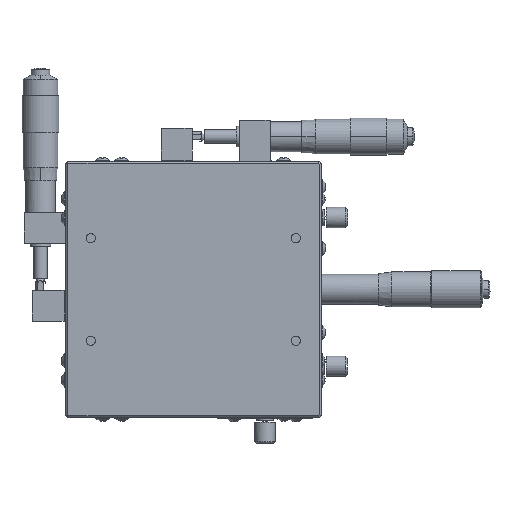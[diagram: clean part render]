
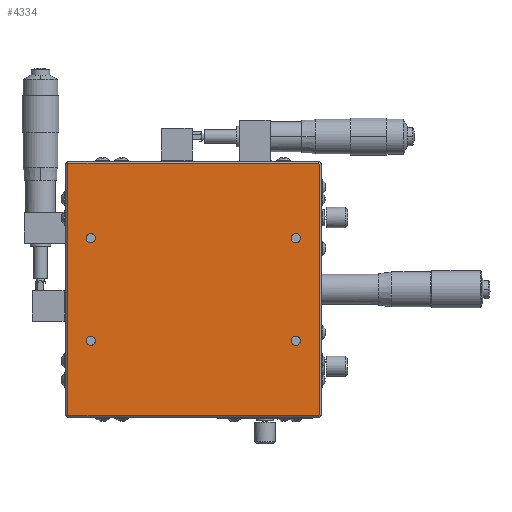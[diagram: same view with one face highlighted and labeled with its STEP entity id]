
A CAD part, front view. The second image highlights one B-rep face of the part: STEP entity #4334.
In plain terms, the highlighted planar face has unit normal (0, 1, 0).
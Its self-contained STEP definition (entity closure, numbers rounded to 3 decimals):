
#107 = AXIS2_PLACEMENT_3D ( 'NONE', #33218, #45636, #7953 ) ;
#946 = DIRECTION ( 'NONE',  ( 0.707, 0., -0.707 ) ) ;
#947 = VERTEX_POINT ( 'NONE', #36220 ) ;
#1582 = ORIENTED_EDGE ( 'NONE', *, *, #17622, .T. ) ;
#2377 = ORIENTED_EDGE ( 'NONE', *, *, #14992, .T. ) ;
#3553 = ORIENTED_EDGE ( 'NONE', *, *, #34336, .F. ) ;
#3908 = EDGE_CURVE ( 'NONE', #30836, #17145, #7326, .T. ) ;
#4127 = ORIENTED_EDGE ( 'NONE', *, *, #16329, .T. ) ;
#4334 = ADVANCED_FACE ( 'NONE', ( #49821, #18247, #31820, #7287, #40164 ), #10108, .T. ) ;
#4842 = ORIENTED_EDGE ( 'NONE', *, *, #19052, .T. ) ;
#5658 = VERTEX_POINT ( 'NONE', #27946 ) ;
#6011 = CARTESIAN_POINT ( 'NONE',  ( -52.828, -95.199, -61.086 ) ) ;
#6767 = DIRECTION ( 'NONE',  ( -0.707, 0., -0.707 ) ) ;
#7114 = EDGE_CURVE ( 'NONE', #37285, #28831, #30478, .T. ) ;
#7235 = VERTEX_POINT ( 'NONE', #38379 ) ;
#7287 = FACE_BOUND ( 'NONE', #45181, .T. ) ;
#7298 = ORIENTED_EDGE ( 'NONE', *, *, #7114, .T. ) ;
#7326 = LINE ( 'NONE', #38105, #44737 ) ;
#7567 = EDGE_LOOP ( 'NONE', ( #16828, #24787 ) ) ;
#7614 = CARTESIAN_POINT ( 'NONE',  ( -164.328, -95.199, -27.25 ) ) ;
#7698 = DIRECTION ( 'NONE',  ( 1., 0., 0. ) ) ;
#7953 = DIRECTION ( 'NONE',  ( 0., 0., 1. ) ) ;
#7985 = DIRECTION ( 'NONE',  ( 0., -1., 0. ) ) ;
#8106 = AXIS2_PLACEMENT_3D ( 'NONE', #28109, #11809, #24137 ) ;
#8314 = DIRECTION ( 'NONE',  ( 0., -1., 0. ) ) ;
#8493 = VECTOR ( 'NONE', #33819, 1000. ) ;
#8815 = CARTESIAN_POINT ( 'NONE',  ( -64.328, -95.199, -27.25 ) ) ;
#9354 = CIRCLE ( 'NONE', #52346, 2.25 ) ;
#9417 = CARTESIAN_POINT ( 'NONE',  ( -53.243, -95.199, 61.5 ) ) ;
#10108 = PLANE ( 'NONE',  #26323 ) ;
#10456 = DIRECTION ( 'NONE',  ( 0., 0., 1. ) ) ;
#10757 = CARTESIAN_POINT ( 'NONE',  ( -64.328, -95.199, 25. ) ) ;
#11610 = DIRECTION ( 'NONE',  ( -0.707, 0., -0.707 ) ) ;
#11736 = DIRECTION ( 'NONE',  ( 0., -1., 0. ) ) ;
#11809 = DIRECTION ( 'NONE',  ( 0., -1., 0. ) ) ;
#11917 = DIRECTION ( 'NONE',  ( 0., 0., 1. ) ) ;
#12427 = ORIENTED_EDGE ( 'NONE', *, *, #44029, .T. ) ;
#12929 = EDGE_CURVE ( 'NONE', #50950, #30836, #51274, .T. ) ;
#13561 = CARTESIAN_POINT ( 'NONE',  ( -175.828, -95.199, -61.086 ) ) ;
#14489 = DIRECTION ( 'NONE',  ( 0., 0., 1. ) ) ;
#14888 = DIRECTION ( 'NONE',  ( 0., -1., 0. ) ) ;
#14992 = EDGE_CURVE ( 'NONE', #28831, #50950, #17617, .T. ) ;
#15012 = VECTOR ( 'NONE', #44471, 1000. ) ;
#15028 = CARTESIAN_POINT ( 'NONE',  ( -175.414, -95.199, 61.5 ) ) ;
#15736 = CARTESIAN_POINT ( 'NONE',  ( -164.328, -95.199, 25. ) ) ;
#16102 = VERTEX_POINT ( 'NONE', #45888 ) ;
#16329 = EDGE_CURVE ( 'NONE', #52215, #41599, #43335, .T. ) ;
#16828 = ORIENTED_EDGE ( 'NONE', *, *, #29738, .T. ) ;
#16883 = CARTESIAN_POINT ( 'NONE',  ( -175.828, -95.199, 61.086 ) ) ;
#16942 = VERTEX_POINT ( 'NONE', #16883 ) ;
#17145 = VERTEX_POINT ( 'NONE', #19228 ) ;
#17169 = CIRCLE ( 'NONE', #30582, 2.25 ) ;
#17383 = EDGE_CURVE ( 'NONE', #7235, #17145, #35920, .T. ) ;
#17473 = EDGE_CURVE ( 'NONE', #21815, #43353, #23000, .T. ) ;
#17617 = LINE ( 'NONE', #27402, #15012 ) ;
#17622 = EDGE_CURVE ( 'NONE', #16102, #947, #17169, .T. ) ;
#17835 = EDGE_CURVE ( 'NONE', #41599, #52215, #31393, .T. ) ;
#18247 = FACE_BOUND ( 'NONE', #43891, .T. ) ;
#18424 = DIRECTION ( 'NONE',  ( 0., 1., 0. ) ) ;
#19042 = ORIENTED_EDGE ( 'NONE', *, *, #43039, .T. ) ;
#19052 = EDGE_CURVE ( 'NONE', #5658, #23974, #9354, .T. ) ;
#19228 = CARTESIAN_POINT ( 'NONE',  ( -175.414, -95.199, -61.5 ) ) ;
#19500 = EDGE_LOOP ( 'NONE', ( #4842, #47802 ) ) ;
#20845 = AXIS2_PLACEMENT_3D ( 'NONE', #47172, #22460, #14489 ) ;
#21364 = VECTOR ( 'NONE', #42851, 1000. ) ;
#21815 = VERTEX_POINT ( 'NONE', #51415 ) ;
#21824 = EDGE_LOOP ( 'NONE', ( #7298, #2377, #49434, #30294, #41524, #12427, #3553, #19042 ) ) ;
#22460 = DIRECTION ( 'NONE',  ( 0., -1., 0. ) ) ;
#23000 = CIRCLE ( 'NONE', #45088, 2.25 ) ;
#23332 = VECTOR ( 'NONE', #7698, 1000. ) ;
#23968 = LINE ( 'NONE', #15028, #44579 ) ;
#23974 = VERTEX_POINT ( 'NONE', #7614 ) ;
#24137 = DIRECTION ( 'NONE',  ( 0., 0., 1. ) ) ;
#24449 = CARTESIAN_POINT ( 'NONE',  ( -53.243, -95.199, -61.5 ) ) ;
#24592 = CARTESIAN_POINT ( 'NONE',  ( -64.328, -95.199, 25. ) ) ;
#24632 = LINE ( 'NONE', #28838, #23332 ) ;
#24787 = ORIENTED_EDGE ( 'NONE', *, *, #17473, .T. ) ;
#25598 = CIRCLE ( 'NONE', #41300, 2.25 ) ;
#26323 = AXIS2_PLACEMENT_3D ( 'NONE', #39304, #18424, #10456 ) ;
#27402 = CARTESIAN_POINT ( 'NONE',  ( -52.828, -95.199, -61.5 ) ) ;
#27946 = CARTESIAN_POINT ( 'NONE',  ( -164.328, -95.199, -22.75 ) ) ;
#28109 = CARTESIAN_POINT ( 'NONE',  ( -64.328, -95.199, -25. ) ) ;
#28170 = EDGE_CURVE ( 'NONE', #23974, #5658, #48813, .T. ) ;
#28373 = CARTESIAN_POINT ( 'NONE',  ( -175.414, -95.199, 61.5 ) ) ;
#28831 = VERTEX_POINT ( 'NONE', #42536 ) ;
#28838 = CARTESIAN_POINT ( 'NONE',  ( -175.828, -95.199, 61.5 ) ) ;
#29550 = DIRECTION ( 'NONE',  ( -1., 0., 0. ) ) ;
#29738 = EDGE_CURVE ( 'NONE', #43353, #21815, #48759, .T. ) ;
#30171 = CARTESIAN_POINT ( 'NONE',  ( -64.328, -95.199, -22.75 ) ) ;
#30294 = ORIENTED_EDGE ( 'NONE', *, *, #3908, .T. ) ;
#30446 = CARTESIAN_POINT ( 'NONE',  ( -175.828, -95.199, -61.5 ) ) ;
#30478 = LINE ( 'NONE', #41731, #8493 ) ;
#30582 = AXIS2_PLACEMENT_3D ( 'NONE', #24592, #11736, #32687 ) ;
#30836 = VERTEX_POINT ( 'NONE', #24449 ) ;
#31393 = CIRCLE ( 'NONE', #8106, 2.25 ) ;
#31698 = ORIENTED_EDGE ( 'NONE', *, *, #17835, .T. ) ;
#31820 = FACE_BOUND ( 'NONE', #7567, .T. ) ;
#32321 = LINE ( 'NONE', #30446, #21364 ) ;
#32377 = CARTESIAN_POINT ( 'NONE',  ( -52.828, -95.199, -61.086 ) ) ;
#32507 = CARTESIAN_POINT ( 'NONE',  ( -164.328, -95.199, 25. ) ) ;
#32687 = DIRECTION ( 'NONE',  ( 0., 0., 1. ) ) ;
#33218 = CARTESIAN_POINT ( 'NONE',  ( -64.328, -95.199, -25. ) ) ;
#33819 = DIRECTION ( 'NONE',  ( 0.707, 0., -0.707 ) ) ;
#34336 = EDGE_CURVE ( 'NONE', #35343, #16942, #23968, .T. ) ;
#35343 = VERTEX_POINT ( 'NONE', #28373 ) ;
#35845 = VECTOR ( 'NONE', #11610, 1000. ) ;
#35920 = LINE ( 'NONE', #13561, #48785 ) ;
#36220 = CARTESIAN_POINT ( 'NONE',  ( -64.328, -95.199, 22.75 ) ) ;
#37285 = VERTEX_POINT ( 'NONE', #9417 ) ;
#38105 = CARTESIAN_POINT ( 'NONE',  ( -175.828, -95.199, -61.5 ) ) ;
#38379 = CARTESIAN_POINT ( 'NONE',  ( -175.828, -95.199, -61.086 ) ) ;
#39304 = CARTESIAN_POINT ( 'NONE',  ( -175.828, -95.199, -61.5 ) ) ;
#39553 = CARTESIAN_POINT ( 'NONE',  ( -164.328, -95.199, 27.25 ) ) ;
#39604 = DIRECTION ( 'NONE',  ( 0., 0., 1. ) ) ;
#40155 = CARTESIAN_POINT ( 'NONE',  ( -164.328, -95.199, -25. ) ) ;
#40164 = FACE_BOUND ( 'NONE', #19500, .T. ) ;
#40668 = DIRECTION ( 'NONE',  ( 0., -1., 0. ) ) ;
#41300 = AXIS2_PLACEMENT_3D ( 'NONE', #10757, #14888, #39604 ) ;
#41524 = ORIENTED_EDGE ( 'NONE', *, *, #17383, .F. ) ;
#41599 = VERTEX_POINT ( 'NONE', #8815 ) ;
#41731 = CARTESIAN_POINT ( 'NONE',  ( -53.243, -95.199, 61.5 ) ) ;
#42536 = CARTESIAN_POINT ( 'NONE',  ( -52.828, -95.199, 61.086 ) ) ;
#42851 = DIRECTION ( 'NONE',  ( 0., 0., 1. ) ) ;
#43039 = EDGE_CURVE ( 'NONE', #35343, #37285, #24632, .T. ) ;
#43335 = CIRCLE ( 'NONE', #107, 2.25 ) ;
#43353 = VERTEX_POINT ( 'NONE', #39553 ) ;
#43891 = EDGE_LOOP ( 'NONE', ( #1582, #49387 ) ) ;
#44029 = EDGE_CURVE ( 'NONE', #7235, #16942, #32321, .T. ) ;
#44471 = DIRECTION ( 'NONE',  ( 0., 0., -1. ) ) ;
#44579 = VECTOR ( 'NONE', #6767, 1000. ) ;
#44737 = VECTOR ( 'NONE', #29550, 1000. ) ;
#45021 = DIRECTION ( 'NONE',  ( 0., 0., 1. ) ) ;
#45088 = AXIS2_PLACEMENT_3D ( 'NONE', #32507, #8314, #11917 ) ;
#45181 = EDGE_LOOP ( 'NONE', ( #4127, #31698 ) ) ;
#45636 = DIRECTION ( 'NONE',  ( 0., -1., 0. ) ) ;
#45888 = CARTESIAN_POINT ( 'NONE',  ( -64.328, -95.199, 27.25 ) ) ;
#47172 = CARTESIAN_POINT ( 'NONE',  ( -164.328, -95.199, -25. ) ) ;
#47802 = ORIENTED_EDGE ( 'NONE', *, *, #28170, .T. ) ;
#48759 = CIRCLE ( 'NONE', #51617, 2.25 ) ;
#48785 = VECTOR ( 'NONE', #946, 1000. ) ;
#48813 = CIRCLE ( 'NONE', #20845, 2.25 ) ;
#48885 = EDGE_CURVE ( 'NONE', #947, #16102, #25598, .T. ) ;
#49387 = ORIENTED_EDGE ( 'NONE', *, *, #48885, .T. ) ;
#49434 = ORIENTED_EDGE ( 'NONE', *, *, #12929, .T. ) ;
#49821 = FACE_OUTER_BOUND ( 'NONE', #21824, .T. ) ;
#50950 = VERTEX_POINT ( 'NONE', #6011 ) ;
#51274 = LINE ( 'NONE', #32377, #35845 ) ;
#51415 = CARTESIAN_POINT ( 'NONE',  ( -164.328, -95.199, 22.75 ) ) ;
#51617 = AXIS2_PLACEMENT_3D ( 'NONE', #15736, #7985, #52713 ) ;
#52215 = VERTEX_POINT ( 'NONE', #30171 ) ;
#52346 = AXIS2_PLACEMENT_3D ( 'NONE', #40155, #40668, #45021 ) ;
#52713 = DIRECTION ( 'NONE',  ( 0., 0., 1. ) ) ;
